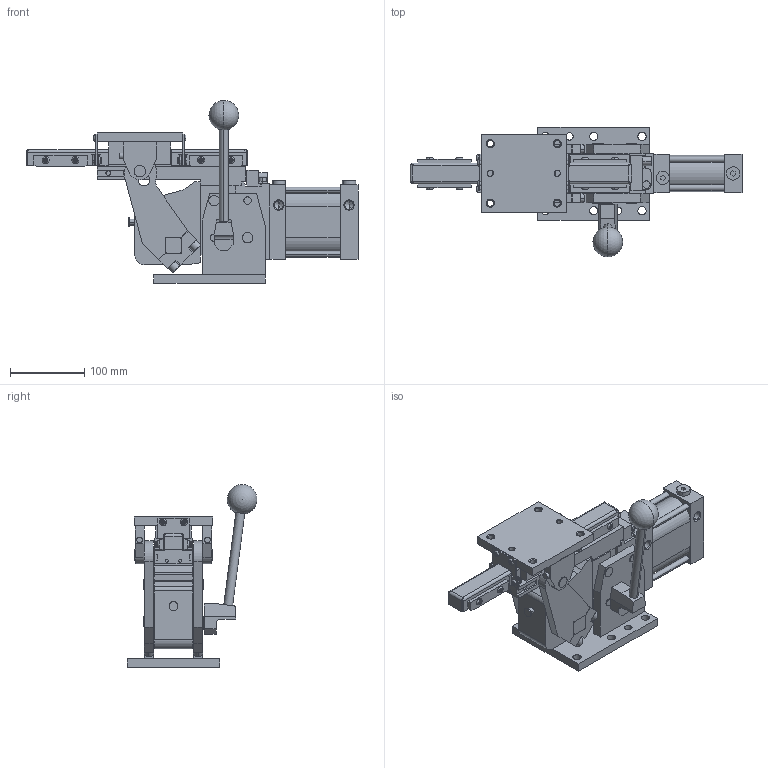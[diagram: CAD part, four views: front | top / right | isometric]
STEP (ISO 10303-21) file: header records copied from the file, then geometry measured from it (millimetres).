
FILE_DESCRIPTION (( 'STEP AP214' ), '1' );
FILE_NAME ('slcpm63_90_xx_la_x_s1.STEP', '2019-09-19T12:58:02', ( '' ), ( '' ), 'SwSTEP 2.0', 'SolidWorks 2019', '' );
FILE_SCHEMA (( 'AUTOMOTIVE_DESIGN' ));
Length unit declared in the file: millimetre
Products named in the file (9): riparo_binario_ant_slcp63; riparo_binario_post_slcp63; piastra_superiore_slcp63; slcpm63_90_xx_la_x_s1; leva_slcp63; tappo cil G1_4 din908_rondella rame; leva_slcpm63; slcpm63_90_xx_x_x; blocchetto_VEP_0
Assembly tree (9 placements, depth 2):
  slcpm63_90_xx_la_x_s1
    slcpm63_90_xx_x_x
    piastra_superiore_slcp63
    leva_slcp63
    blocchetto_VEP_0
    tappo cil G1_4 din908_rondella rame  x2
    leva_slcpm63
    riparo_binario_ant_slcp63
    riparo_binario_post_slcp63
Bounding box: 446.5 x 174.8 x 246.1 mm (x, y, z)
Volume: 2775807.4 mm3; surface area: 412399.3 mm2
Topology: 44 solids, 58 shells, 1576 faces, 3880 edges, 2411 vertices
Faces by surface type: plane 730, cylinder 436, cone 366, torus 42, sphere 2
Entity records: 58344 total; most frequent: CARTESIAN_POINT 9151, DIRECTION 8019, ORIENTED_EDGE 7514, EDGE_CURVE 3757, AXIS2_PLACEMENT_3D 2924, VERTEX_POINT 2388, LINE 2171, VECTOR 2171
